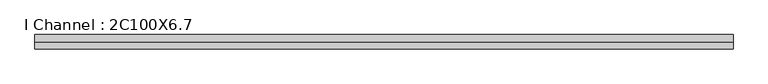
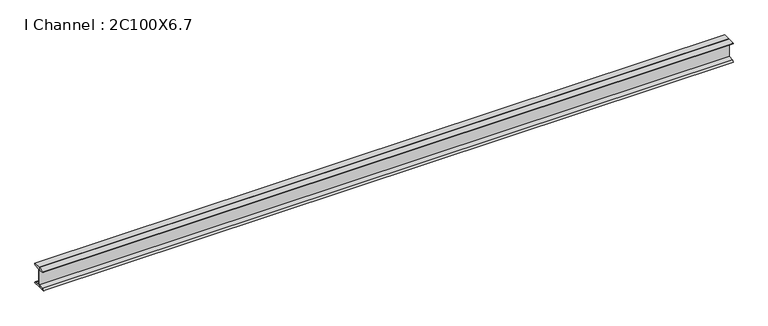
"""IFC4 building model written with IfcOpenShell, lengths in millimetres: beam geometry, I Channel : 2C100X6.7."""

from ifc_helpers import new_model, si_unit, point, frame, frame_2d, origin, place, context, project, spatial, polyline, circle_curve, trimmed, segment, composite_curve, outline, extrude, source, transform, mapped, element, save


def i_channel_2c100x6_7_e83eee92(model_context):
    return source(origin(), model_context, "Body", "SweptSolid", [
        extrude(outline(composite_curve([segment(polyline([(0.0, 48.5), (34.0, 48.5)]), True, "CONTINUOUS"), segment(trimmed(circle_curve(frame_2d((26.5, 48.5)), 7.5), [point((34.0, 48.5))], [point((26.5, 41.0))], False, "CARTESIAN"), True, "CONTINUOUS"), segment(polyline([(26.5, 41.0), (3.2, 37.3096425), (3.2, -37.3096425), (26.5, -41.0)]), True, "CONTINUOUS"), segment(trimmed(circle_curve(frame_2d((26.5, -48.5)), 7.5), [point((26.5, -41.0))], [point((34.0, -48.5))], False, "CARTESIAN"), True, "CONTINUOUS"), segment(polyline([(34.0, -48.5), (0.0, -48.5), (0.0, 48.5)]), True, "CONTINUOUS")], self_intersect=False)), frame((-695.3530927, 0.0, 0.0), z_axis=(1.0, 0.0, 0.0), x_axis=(0.0, 1.0, 0.0)), (0.0, 0.0, 1.0), 3290.0640012),
        extrude(outline(composite_curve([segment(polyline([(0.0, 48.5), (0.0, -48.5), (-34.0, -48.5)]), True, "CONTINUOUS"), segment(trimmed(circle_curve(frame_2d((-26.5, -48.5)), 7.5), [point((-34.0, -48.5))], [point((-26.5, -41.0))], False, "CARTESIAN"), True, "CONTINUOUS"), segment(polyline([(-26.5, -41.0), (-3.2, -37.3096425), (-3.2, 37.3096425), (-26.5, 41.0)]), True, "CONTINUOUS"), segment(trimmed(circle_curve(frame_2d((-26.5, 48.5)), 7.5), [point((-26.5, 41.0))], [point((-34.0, 48.5))], False, "CARTESIAN"), True, "CONTINUOUS"), segment(polyline([(-34.0, 48.5), (0.0, 48.5)]), True, "CONTINUOUS")], self_intersect=False)), frame((-695.3530927, 0.0, 0.0), z_axis=(1.0, 0.0, 0.0), x_axis=(0.0, 1.0, 0.0)), (0.0, 0.0, 1.0), 3290.0640012),
    ])


if __name__ == "__main__":
    model = new_model("IFC4")
    model_context = context("Model", 3, world=origin())
    ifc_project = project(units=[si_unit("LENGTHUNIT", "METRE", prefix="MILLI")], contexts=[model_context])
    site = spatial("IfcSite", under=ifc_project)
    building = spatial("IfcBuilding", under=site)
    placement = place(None, origin())
    i_channel_2c100x6_7_shape = i_channel_2c100x6_7_e83eee92(model_context)
    element("IfcBeam", 1, ObjectType="I Channel : 2C100X6.7", at=placement, inside=building, context=model_context, shape_type="MappedRepresentation", body=[
        mapped(i_channel_2c100x6_7_shape, transform((0.0, 0.0, 0.0), x_axis=(1.0, 0.0, 0.0), y_axis=(0.0, 1.0, 0.0), z_axis=(0.0, 0.0, 1.0))),
    ])
    save(model, "model.ifc")
